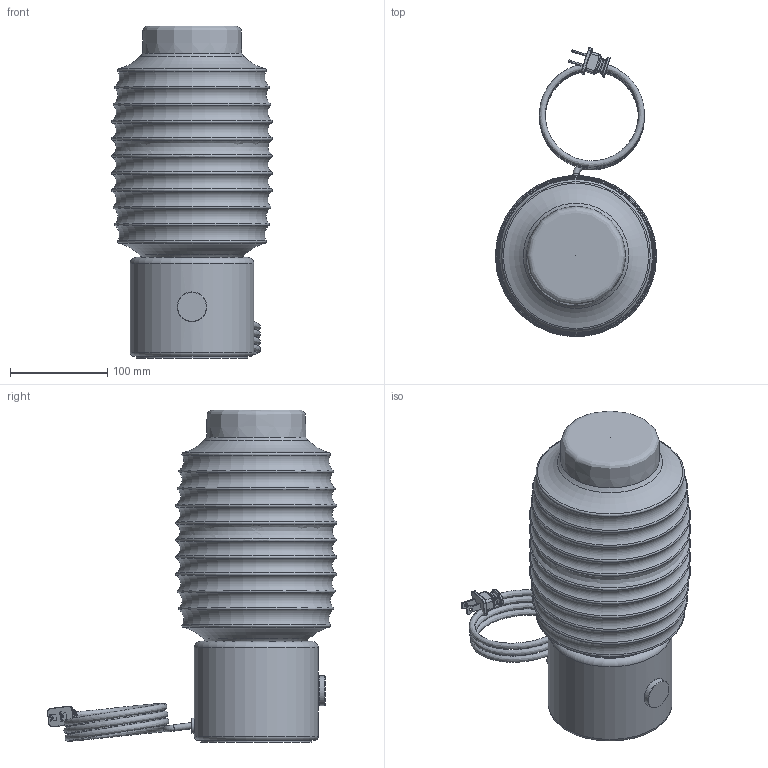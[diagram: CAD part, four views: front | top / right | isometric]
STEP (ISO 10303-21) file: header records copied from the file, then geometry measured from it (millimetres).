
FILE_DESCRIPTION(/* description */ (''),/* implementation_level */ '2;1');
FILE_NAME(/* name */ 'Chinois - Ionic Table Lamp.step',/* time_stamp */ '2024-07-26T15:53:53-04:00',/* author */ (''),/* organization */ (''),/* preprocessor_version */ 'ST-DEVELOPER v20',/* originating_system */ 'Autodesk Translation Framework v13.14.0.145',/* authorisation */ '');
FILE_SCHEMA (('AUTOMOTIVE_DESIGN { 1 0 10303 214 3 1 1 }'));
Length unit declared in the file: inch
Products named in the file (20): Marble Base - Ionic Table Lamp - 120V; Coiled - SVT (Blk Fabric); Brass Dial - Dimmer Knob; µ÷¹âÆ÷; 90701000093 ¹â°åE27µÆ×ù_¦Õ375
9mm_ºÚÉ«_CEÈÏÖ¤; 90701000096 M10ÑÀ¹Ü_M10L25mmÄÚ¿×¦
Õ7_²ÄÖÊ£ºÌú_¶Æ°×Ð
¿_RoHS; 90701000098 Ñ¹Ïß°å_PP_314612_º
ÚÉ«; 90701000097 M10Áù½Ç±¡ÂÝÄ¸_M10
_²ÄÖÊ£ºÌú_¶Æ°×Ð¿
_RoHS; M10ÄÚ¾â³ÝËø½ôµæÈ¦
_²ÄÖÊ£ºÌú_¶Æ°×Ð¿
_RoHS; Marble Base; Plastic Insert; Silicone Gasket; T9 - Bulb; T9 - LED Bulb; T9; E26 Base; Rubber Grommet; 2-Pole Plug End; Neoprene Pad; Chinois
Assembly tree (19 placements, depth 4):
  Marble Base - Ionic Table Lamp - 120V
    Coiled - SVT (Blk Fabric)
    Brass Dial - Dimmer Knob
    µ÷¹âÆ÷
    90701000093 ¹â°åE27µÆ×ù_¦Õ375
9mm_ºÚÉ«_CEÈÏÖ¤
    90701000096 M10ÑÀ¹Ü_M10L25mmÄÚ¿×¦
Õ7_²ÄÖÊ£ºÌú_¶Æ°×Ð
¿_RoHS
    90701000098 Ñ¹Ïß°å_PP_314612_º
ÚÉ«
    90701000097 M10Áù½Ç±¡ÂÝÄ¸_M10
_²ÄÖÊ£ºÌú_¶Æ°×Ð¿
_RoHS
    M10ÄÚ¾â³ÝËø½ôµæÈ¦
_²ÄÖÊ£ºÌú_¶Æ°×Ð¿
_RoHS
    Marble Base
    Plastic Insert
    Silicone Gasket
    T9 - Bulb
      T9 - LED Bulb
        T9
        E26 Base
    Rubber Grommet
    2-Pole Plug End
    Neoprene Pad
    Chinois
Bounding box: 165.1 x 296.9 x 340.68 mm (x, y, z)
Volume: 1167952 mm3; surface area: 585682 mm2
Topology: 17 solids, 18 shells, 2058 faces, 5440 edges, 3562 vertices
Faces by surface type: plane 998, bspline 823, cylinder 131, torus 66, cone 36, sphere 4
Full cylindrical faces by diameter (mm): 3.175 x2, 4.092 x1, 5.08 x1, 6.35 x2, 6.7 x1, 7 x1, 7.62 x2, 8.128 x1, 8.3 x1, 8.376 x14, 10 x16, 10.16 x1, 10.5 x1, 10.922 x1, 11 x1, 11.684 x1, 14 x1, 15.24 x2, 16 x1, 16.8 x1, 21 x1, 25.94 x1, 27 x1, 27.94 x1, 30.48 x1, 35.5 x1, 37.5 x1, 39.37 x1, 41.402 x1, 80.518 x1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
Entity records: 79966 total; most frequent: CARTESIAN_POINT 33777, ORIENTED_EDGE 10866, DIRECTION 6731, EDGE_CURVE 5434, VERTEX_POINT 3562, LINE 3295, VECTOR 3295, EDGE_LOOP 2238
